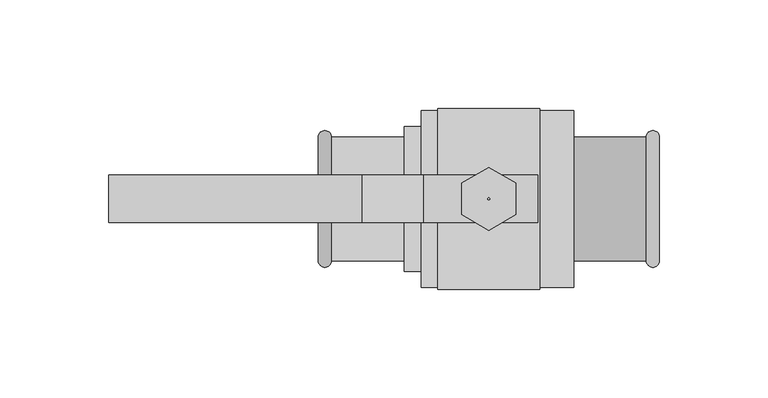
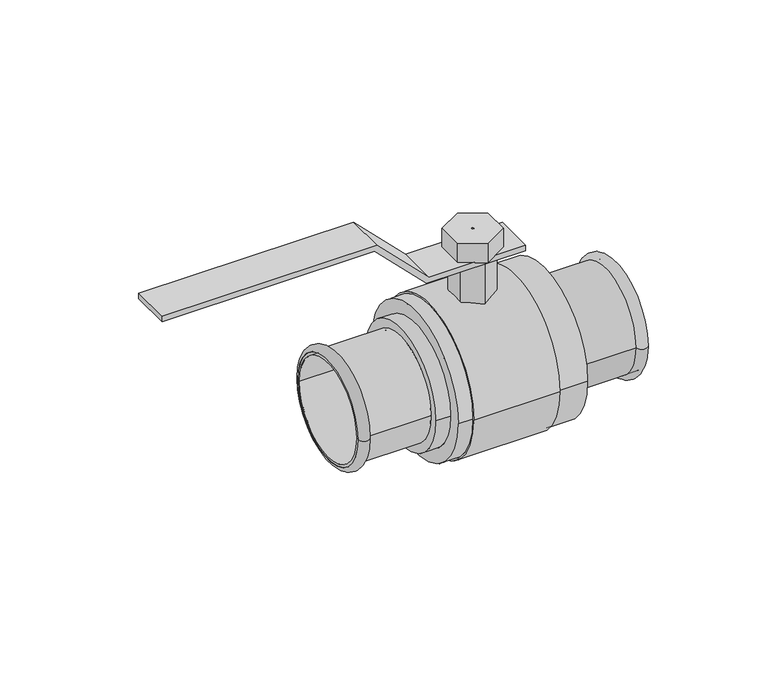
"""IFC4 building model written with IfcOpenShell, lengths in millimetres: valve geometry, NLRS_50_PIA_UN_Geberit Mapress kogelkraan NPW, met bedieningshendel_PRO_103494 : DN12-50 / d15-54 - OD."""

from ifc_helpers import new_model, si_unit, point, frame, origin, place, context, project, spatial, polyline, circle_curve, ellipse_curve, trimmed, outline, extrude, source, transform, mapped, element, save
from ifc_brep_helpers import plane_surface, cylinder_surface, revolved_surface, advanced_brep


def valve_ff65ae7b(model_context):
    return source(origin(), model_context, "Body", "SolidModel", [
        extrude(outline(polyline([(62.6666667, -31.2426407), (62.6666667, 22.5), (65.6666667, 22.5), (65.6666667, -30.0), (94.0, -58.3333333), (94.0, -175.0), (91.0, -175.0), (91.0, -59.575974), (62.6666667, -31.2426407)])), frame((0.0, -10.9375, 0.0), z_axis=(0.0, 1.0, 0.0), x_axis=(0.0, 0.0, 1.0)), (0.0, 0.0, 1.0), 21.875),
        advanced_brep(
        [(78.5, -28.5, 0.0), (78.5, 28.5, 0.0), (72.4987073, 28.5, 0.0), (72.4987073, -28.5, 0.0)],
        [
            (0, 1, circle_curve(frame((78.5, 0.0, 0.0), z_axis=(1.0, 0.0, 0.0), x_axis=(0.0, 1.0, 0.0)), 28.5)),
            (1, 2),
            (2, 3, circle_curve(frame((72.4987073, 0.0, 0.0), z_axis=(-1.0, 0.0, 0.0), x_axis=(0.0, 1.0, 0.0)), 28.5)),
            (3, 0),
            (1, 0, circle_curve(frame((78.5, 0.0, 0.0), z_axis=(1.0, 0.0, 0.0), x_axis=(0.0, 1.0, 0.0)), 28.5)),
            (3, 2, circle_curve(frame((72.4987073, 0.0, 0.0), z_axis=(-1.0, 0.0, 0.0), x_axis=(0.0, 1.0, 0.0)), 28.5)),
            (2, 1, circle_curve(frame((75.4993536, 28.5, 0.0), z_axis=(0.0, 0.0, -1.0), x_axis=(1.0, 0.0, 0.0)), 3.0006464)),
            (0, 3, circle_curve(frame((75.4993536, -28.5, 0.0), z_axis=(0.0, 0.0, -1.0), x_axis=(1.0, 0.0, 0.0)), 3.0006464)),
        ],
        [
            revolved_surface(polyline([(72.4987073, 28.5, 0.0), (78.5, 28.5, 0.0)]), (39.0, 0.0, 0.0), (-1.0, 0.0, 0.0)),
            revolved_surface(trimmed(ellipse_curve(frame((75.4993536, 28.5, 0.0), z_axis=(0.0, 0.0, 1.0), x_axis=(1.0, 0.0, 0.0)), 3.0006464, 3.0006464), [point((78.5, 28.5, 0.0))], [point((72.4987073, 28.5, 0.0))], True, "CARTESIAN"), (39.0, 0.0, 0.0), (-1.0, 0.0, 0.0)),
        ],
        [
            (0, [[1, 2, 3, 4]]),
            (0, [[5, -4, 6, -2]]),
            (1, [[-3, 7, -1, 8]]),
            (1, [[-6, -8, -5, -7]]),
        ],
    ),
        advanced_brep(
        [(78.5, -27.0, 0.0), (78.5, 27.0, 0.0), (38.0, 27.0, 0.0), (38.0, -27.0, 0.0), (78.5, -28.5, 0.0), (78.5, 28.5, 0.0), (39.0, -28.5, 0.0), (39.0, 28.5, 0.0)],
        [
            (0, 1, circle_curve(frame((78.5, 0.0, 0.0), z_axis=(1.0, 0.0, 0.0), x_axis=(0.0, 1.0, 0.0)), 27.0)),
            (1, 2),
            (2, 3, circle_curve(frame((38.0, 0.0, 0.0), z_axis=(-1.0, 0.0, 0.0), x_axis=(0.0, 1.0, 0.0)), 27.0)),
            (3, 0),
            (1, 0, circle_curve(frame((78.5, 0.0, 0.0), z_axis=(1.0, 0.0, 0.0), x_axis=(0.0, 1.0, 0.0)), 27.0)),
            (3, 2, circle_curve(frame((38.0, 0.0, 0.0), z_axis=(-1.0, 0.0, 0.0), x_axis=(0.0, 1.0, 0.0)), 27.0)),
            (4, 5, circle_curve(frame((78.5, 0.0, 0.0), z_axis=(1.0, 0.0, 0.0), x_axis=(0.0, 1.0, 0.0)), 28.5)),
            (5, 1),
            (0, 4),
            (5, 4, circle_curve(frame((78.5, 0.0, 0.0), z_axis=(1.0, 0.0, 0.0), x_axis=(0.0, 1.0, 0.0)), 28.5)),
            (6, 7, circle_curve(frame((39.0, 0.0, 0.0), z_axis=(1.0, 0.0, 0.0), x_axis=(0.0, 1.0, 0.0)), 28.5)),
            (7, 5),
            (4, 6),
            (7, 6, circle_curve(frame((39.0, 0.0, 0.0), z_axis=(1.0, 0.0, 0.0), x_axis=(0.0, 1.0, 0.0)), 28.5)),
            (2, 7),
            (6, 3),
        ],
        [
            revolved_surface(polyline([(38.0, 27.0, 0.0), (78.5, 27.0, 0.0)]), (39.0, 0.0, 0.0), (-1.0, 0.0, 0.0)),
            plane_surface(frame((78.5, 0.0, 0.0), z_axis=(1.0, 0.0, 0.0), x_axis=(0.0, 1.0, 0.0))),
            cylinder_surface(frame((39.0, 0.0, 0.0), z_axis=(-1.0, 0.0, 0.0), x_axis=(0.0, 1.0, 0.0)), 28.5),
            revolved_surface(polyline([(39.0, 28.5, 0.0), (38.0, 27.0, 0.0)]), (39.0, 0.0, 0.0), (-1.0, 0.0, 0.0)),
        ],
        [
            (0, [[1, 2, 3, 4]]),
            (0, [[5, -4, 6, -2]]),
            (1, [[7, 8, -1, 9]]),
            (1, [[10, -9, -5, -8]]),
            (2, [[11, 12, -7, 13]]),
            (2, [[14, -13, -10, -12]]),
            (3, [[-3, 15, -11, 16]]),
            (3, [[-6, -16, -14, -15]]),
        ],
    ),
        advanced_brep(
        [(-78.5, 28.5, 0.0), (-78.5, -28.5, 0.0), (-72.4987073, -28.5, 0.0), (-72.4987073, 28.5, 0.0)],
        [
            (0, 1, circle_curve(frame((-78.5, 0.0, 0.0), z_axis=(-1.0, 0.0, 0.0), x_axis=(0.0, -1.0, 0.0)), 28.5)),
            (1, 2),
            (2, 3, circle_curve(frame((-72.4987073, 0.0, 0.0), z_axis=(1.0, 0.0, 0.0), x_axis=(0.0, -1.0, 0.0)), 28.5)),
            (3, 0),
            (1, 0, circle_curve(frame((-78.5, 0.0, 0.0), z_axis=(-1.0, 0.0, 0.0), x_axis=(0.0, -1.0, 0.0)), 28.5)),
            (3, 2, circle_curve(frame((-72.4987073, 0.0, 0.0), z_axis=(1.0, 0.0, 0.0), x_axis=(0.0, -1.0, 0.0)), 28.5)),
            (2, 1, circle_curve(frame((-75.4993536, -28.5, 0.0), z_axis=(0.0, 0.0, -1.0), x_axis=(-1.0, 0.0, 0.0)), 3.0006464)),
            (0, 3, circle_curve(frame((-75.4993536, 28.5, 0.0), z_axis=(0.0, 0.0, -1.0), x_axis=(-1.0, 0.0, 0.0)), 3.0006464)),
        ],
        [
            revolved_surface(polyline([(-72.4987073, -28.5, 0.0), (-78.5, -28.5, 0.0)]), (-39.0, 0.0, 0.0), (1.0, 0.0, 0.0)),
            revolved_surface(trimmed(ellipse_curve(frame((-75.4993536, -28.5, 0.0), z_axis=(0.0, 0.0, 1.0), x_axis=(-1.0, 0.0, 0.0)), 3.0006464, 3.0006464), [point((-78.5, -28.5, 0.0))], [point((-72.4987073, -28.5, 0.0))], True, "CARTESIAN"), (-39.0, 0.0, 0.0), (1.0, 0.0, 0.0)),
        ],
        [
            (0, [[1, 2, 3, 4]]),
            (0, [[5, -4, 6, -2]]),
            (1, [[-3, 7, -1, 8]]),
            (1, [[-6, -8, -5, -7]]),
        ],
    ),
        advanced_brep(
        [(-78.5, 27.0, 0.0), (-78.5, -27.0, 0.0), (-38.0, -27.0, 0.0), (-38.0, 27.0, 0.0), (-78.5, 28.5, 0.0), (-78.5, -28.5, 0.0), (-39.0, 28.5, 0.0), (-39.0, -28.5, 0.0)],
        [
            (0, 1, circle_curve(frame((-78.5, 0.0, 0.0), z_axis=(-1.0, 0.0, 0.0), x_axis=(0.0, -1.0, 0.0)), 27.0)),
            (1, 2),
            (2, 3, circle_curve(frame((-38.0, 0.0, 0.0), z_axis=(1.0, 0.0, 0.0), x_axis=(0.0, -1.0, 0.0)), 27.0)),
            (3, 0),
            (1, 0, circle_curve(frame((-78.5, 0.0, 0.0), z_axis=(-1.0, 0.0, 0.0), x_axis=(0.0, -1.0, 0.0)), 27.0)),
            (3, 2, circle_curve(frame((-38.0, 0.0, 0.0), z_axis=(1.0, 0.0, 0.0), x_axis=(0.0, -1.0, 0.0)), 27.0)),
            (4, 5, circle_curve(frame((-78.5, 0.0, 0.0), z_axis=(-1.0, 0.0, 0.0), x_axis=(0.0, -1.0, 0.0)), 28.5)),
            (5, 1),
            (0, 4),
            (5, 4, circle_curve(frame((-78.5, 0.0, 0.0), z_axis=(-1.0, 0.0, 0.0), x_axis=(0.0, -1.0, 0.0)), 28.5)),
            (6, 7, circle_curve(frame((-39.0, 0.0, 0.0), z_axis=(-1.0, 0.0, 0.0), x_axis=(0.0, -1.0, 0.0)), 28.5)),
            (7, 5),
            (4, 6),
            (7, 6, circle_curve(frame((-39.0, 0.0, 0.0), z_axis=(-1.0, 0.0, 0.0), x_axis=(0.0, -1.0, 0.0)), 28.5)),
            (2, 7),
            (6, 3),
        ],
        [
            revolved_surface(polyline([(-38.0, -27.0, 0.0), (-78.5, -27.0, 0.0)]), (-39.0, 0.0, 0.0), (1.0, 0.0, 0.0)),
            plane_surface(frame((-78.5, 0.0, 0.0), z_axis=(-1.0, 0.0, 0.0), x_axis=(0.0, -1.0, 0.0))),
            cylinder_surface(frame((-39.0, 0.0, 0.0), z_axis=(1.0, 0.0, 0.0), x_axis=(0.0, -1.0, 0.0)), 28.5),
            revolved_surface(polyline([(-39.0, -28.5, 0.0), (-38.0, -27.0, 0.0)]), (-39.0, 0.0, 0.0), (1.0, 0.0, 0.0)),
        ],
        [
            (0, [[1, 2, 3, 4]]),
            (0, [[5, -4, 6, -2]]),
            (1, [[7, 8, -1, 9]]),
            (1, [[10, -9, -5, -8]]),
            (2, [[11, 12, -7, 13]]),
            (2, [[14, -13, -10, -12]]),
            (3, [[-3, 15, -11, 16]]),
            (3, [[-6, -16, -14, -15]]),
        ],
    ),
        advanced_brep(
        [(-31.2, 33.3333333, 0.0), (-31.2, -33.3333333, 0.0), (-39.0, -33.3333333, 0.0), (-39.0, 33.3333333, 0.0), (-23.4, 40.6666667, 0.0), (-23.4, -40.6666667, 0.0), (-31.2, -40.6666667, 0.0), (-31.2, 40.6666667, 0.0), (23.4, 41.6666667, 0.0), (23.4, -41.6666667, 0.0), (-23.4, -41.6666667, 0.0), (-23.4, 41.6666667, 0.0), (39.0, 40.6666667, 0.0), (39.0, -40.6666667, 0.0), (23.4, -40.6666667, 0.0), (23.4, 40.6666667, 0.0), (-39.0, 25.0, 0.0), (-39.0, -25.0, 0.0), (39.0, -25.0, 0.0), (39.0, 25.0, 0.0), (0.0, -11.5470054, 40.0347072), (-10.0, -5.7735027, 41.264728), (-10.0, 5.7735027, 41.264728), (0.0, 11.5470054, 40.0347072), (10.0, 5.7735027, 41.264728), (10.0, -5.7735027, 41.264728), (-0.5, -0.2886751, 41.6656667), (0.0, -0.5773503, 41.6626665), (0.5, -0.2886751, 41.6656667), (0.5, 0.2886751, 41.6656667), (0.0, 0.5773503, 41.6626665), (-0.5, 0.2886751, 41.6656667), (-10.0, -5.7735027, 24.3241992), (0.0, -11.5470054, 22.1735578), (10.0, -5.7735027, 24.3241992), (10.0, 5.7735027, 24.3241992), (0.0, 11.5470054, 22.1735578), (-10.0, 5.7735027, 24.3241992), (0.0, -0.5773503, 24.9933324), (-0.5, -0.2886751, 24.9983333), (-0.5, 0.2886751, 24.9983333), (0.0, 0.5773503, 24.9933324), (0.5, 0.2886751, 24.9983333), (0.5, -0.2886751, 24.9983333), (-1.5, -0.8660254, 65.6666667), (-1.5, -0.8660254, 62.6666667), (0.0, -1.7320508, 62.6666667), (0.0, -1.7320508, 65.6666667), (-12.5, -7.2168784, 76.6666667), (-12.5, -7.2168784, 65.6666667), (0.0, -14.4337567, 65.6666667), (0.0, -14.4337567, 76.6666667), (-0.5, -0.2886751, 76.6666667), (0.0, -0.5773503, 76.6666667), (0.0, -0.5773503, 0.0), (-0.5, -0.2886751, 0.0), (-10.0, -5.7735027, 0.0), (0.0, -11.5470054, 0.0), (0.0, -11.5470054, 62.6666667), (-10.0, -5.7735027, 62.6666667), (1.5, -0.8660254, 62.6666667), (1.5, -0.8660254, 65.6666667), (12.5, -7.2168784, 65.6666667), (12.5, -7.2168784, 76.6666667), (0.5, -0.2886751, 76.6666667), (0.5, -0.2886751, 0.0), (10.0, -5.7735027, 0.0), (10.0, -5.7735027, 62.6666667), (1.5, 0.8660254, 65.6666667), (1.5, 0.8660254, 62.6666667), (0.0, 1.7320508, 62.6666667), (0.0, 1.7320508, 65.6666667), (12.5, 7.2168784, 76.6666667), (12.5, 7.2168784, 65.6666667), (0.0, 14.4337567, 65.6666667), (0.0, 14.4337567, 76.6666667), (0.5, 0.2886751, 76.6666667), (0.0, 0.5773503, 76.6666667), (0.0, 0.5773503, 0.0), (0.5, 0.2886751, 0.0), (10.0, 5.7735027, 0.0), (0.0, 11.5470054, 0.0), (0.0, 11.5470054, 62.6666667), (10.0, 5.7735027, 62.6666667), (-1.5, 0.8660254, 62.6666667), (-1.5, 0.8660254, 65.6666667), (-12.5, 7.2168784, 65.6666667), (-12.5, 7.2168784, 76.6666667), (-0.5, 0.2886751, 76.6666667), (-0.5, 0.2886751, 0.0), (-10.0, 5.7735027, 0.0), (-10.0, 5.7735027, 62.6666667)],
        [
            (0, 1, circle_curve(frame((-31.2, 0.0, 0.0), z_axis=(-1.0, 0.0, 0.0), x_axis=(0.0, -1.0, 0.0)), 33.3333333)),
            (1, 2),
            (2, 3, circle_curve(frame((-39.0, 0.0, 0.0), z_axis=(1.0, 0.0, 0.0), x_axis=(0.0, -1.0, 0.0)), 33.3333333)),
            (3, 0),
            (4, 5, circle_curve(frame((-23.4, 0.0, 0.0), z_axis=(-1.0, 0.0, 0.0), x_axis=(0.0, -1.0, 0.0)), 40.6666667)),
            (5, 6),
            (6, 7, circle_curve(frame((-31.2, 0.0, 0.0), z_axis=(1.0, 0.0, 0.0), x_axis=(0.0, -1.0, 0.0)), 40.6666667)),
            (7, 4),
            (8, 9, circle_curve(frame((23.4, 0.0, 0.0), z_axis=(-1.0, 0.0, 0.0), x_axis=(0.0, -1.0, 0.0)), 41.6666667)),
            (9, 10),
            (10, 11, circle_curve(frame((-23.4, 0.0, 0.0), z_axis=(1.0, 0.0, 0.0), x_axis=(0.0, -1.0, 0.0)), 41.6666667)),
            (11, 8),
            (12, 13, circle_curve(frame((39.0, 0.0, 0.0), z_axis=(-1.0, 0.0, 0.0), x_axis=(0.0, -1.0, 0.0)), 40.6666667)),
            (13, 14),
            (14, 15, circle_curve(frame((23.4, 0.0, 0.0), z_axis=(1.0, 0.0, 0.0), x_axis=(0.0, -1.0, 0.0)), 40.6666667)),
            (15, 12),
            (16, 17, circle_curve(frame((-39.0, 0.0, 0.0), z_axis=(-1.0, 0.0, 0.0), x_axis=(0.0, -1.0, 0.0)), 25.0)),
            (17, 18),
            (18, 19, circle_curve(frame((39.0, 0.0, 0.0), z_axis=(1.0, 0.0, 0.0), x_axis=(0.0, -1.0, 0.0)), 25.0)),
            (19, 16),
            (1, 0, circle_curve(frame((-31.2, 0.0, 0.0), z_axis=(-1.0, 0.0, 0.0), x_axis=(0.0, 1.0, 0.0)), 33.3333333)),
            (3, 2, circle_curve(frame((-39.0, 0.0, 0.0), z_axis=(1.0, 0.0, 0.0), x_axis=(0.0, 1.0, 0.0)), 33.3333333)),
            (6, 7, circle_curve(frame((-31.2, 0.0, 0.0), z_axis=(-1.0, 0.0, 0.0), x_axis=(0.0, 1.0, 0.0)), 40.6666667)),
            (5, 4, circle_curve(frame((-23.4, 0.0, 0.0), z_axis=(-1.0, 0.0, 0.0), x_axis=(0.0, 1.0, 0.0)), 40.6666667)),
            (10, 11, circle_curve(frame((-23.4, 0.0, 0.0), z_axis=(-1.0, 0.0, 0.0), x_axis=(0.0, 1.0, 0.0)), 41.6666667)),
            (9, 8, circle_curve(frame((23.4, 0.0, 0.0), z_axis=(-1.0, 0.0, 0.0), x_axis=(0.0, 1.0, 0.0)), 41.6666667)),
            (20, 21, ellipse_curve(frame((-20.0, 0.0, 0.0), z_axis=(-0.5000000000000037, -0.8660254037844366, 0.0), x_axis=(0.8660254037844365, -0.5000000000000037, 0.0)), 83.3333333, 41.6666667)),
            (21, 22, circle_curve(frame((-10.0, 0.0, 0.0), z_axis=(-1.0, 0.0, 0.0), x_axis=(0.0, 1.0, 0.0)), 41.6666667)),
            (22, 23, ellipse_curve(frame((-20.0, 0.0, 0.0), z_axis=(-0.4999999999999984, 0.8660254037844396, 0.0), x_axis=(0.8660254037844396, 0.49999999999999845, 0.0)), 83.3333333, 41.6666667)),
            (23, 24, ellipse_curve(frame((20.0, 0.0, 0.0), z_axis=(0.5000000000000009, 0.8660254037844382, 0.0), x_axis=(0.866025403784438, -0.5000000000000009, 0.0)), 83.3333333, 41.6666667)),
            (24, 25, circle_curve(frame((10.0, 0.0, 0.0), z_axis=(1.0, 0.0, 0.0), x_axis=(0.0, 1.0, 0.0)), 41.6666667)),
            (25, 20, ellipse_curve(frame((20.0, 0.0, 0.0), z_axis=(0.49999999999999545, -0.8660254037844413, 0.0), x_axis=(0.8660254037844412, 0.4999999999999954, 0.0)), 83.3333333, 41.6666667)),
            (26, 27, ellipse_curve(frame((-1.0, 0.0, 0.0), z_axis=(0.5000000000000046, 0.866025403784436, 0.0), x_axis=(0.866025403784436, -0.5000000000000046, 0.0)), 83.3333333, 41.6666667)),
            (27, 28, ellipse_curve(frame((1.0, 0.0, 0.0), z_axis=(-0.4999999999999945, 0.8660254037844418, 0.0), x_axis=(0.8660254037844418, 0.49999999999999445, 0.0)), 83.3333333, 41.6666667)),
            (28, 29, circle_curve(frame((0.5, 0.0, 0.0), z_axis=(-1.0, 0.0, 0.0), x_axis=(0.0, 1.0, 0.0)), 41.6666667)),
            (29, 30, ellipse_curve(frame((1.0, 0.0, 0.0), z_axis=(-0.5000000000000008, -0.8660254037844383, 0.0), x_axis=(0.8660254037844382, -0.5000000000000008, 0.0)), 83.3333333, 41.6666667)),
            (30, 31, ellipse_curve(frame((-1.0, 0.0, 0.0), z_axis=(0.5000000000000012, -0.866025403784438, 0.0), x_axis=(0.8660254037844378, 0.5000000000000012, 0.0)), 83.3333333, 41.6666667)),
            (31, 26, circle_curve(frame((-0.5, 0.0, 0.0), z_axis=(1.0, 0.0, 0.0), x_axis=(0.0, 1.0, 0.0)), 41.6666667)),
            (14, 15, circle_curve(frame((23.4, 0.0, 0.0), z_axis=(-1.0, 0.0, 0.0), x_axis=(0.0, 1.0, 0.0)), 40.6666667)),
            (13, 12, circle_curve(frame((39.0, 0.0, 0.0), z_axis=(-1.0, 0.0, 0.0), x_axis=(0.0, 1.0, 0.0)), 40.6666667)),
            (18, 19, circle_curve(frame((39.0, 0.0, 0.0), z_axis=(-1.0, 0.0, 0.0), x_axis=(0.0, 1.0, 0.0)), 25.0)),
            (17, 16, circle_curve(frame((-39.0, 0.0, 0.0), z_axis=(-1.0, 0.0, 0.0), x_axis=(0.0, 1.0, 0.0)), 25.0)),
            (32, 33, ellipse_curve(frame((-20.0, 0.0, 0.0), z_axis=(0.5000000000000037, 0.8660254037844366, 0.0), x_axis=(0.8660254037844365, -0.5000000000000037, 0.0)), 50.0, 25.0)),
            (33, 34, ellipse_curve(frame((20.0, 0.0, 0.0), z_axis=(-0.49999999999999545, 0.8660254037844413, 0.0), x_axis=(0.8660254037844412, 0.4999999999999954, 0.0)), 50.0, 25.0)),
            (34, 35, circle_curve(frame((10.0, 0.0, 0.0), z_axis=(-1.0, 0.0, 0.0), x_axis=(0.0, 1.0, 0.0)), 25.0)),
            (35, 36, ellipse_curve(frame((20.0, 0.0, 0.0), z_axis=(-0.5000000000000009, -0.8660254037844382, 0.0), x_axis=(0.866025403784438, -0.5000000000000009, 0.0)), 50.0, 25.0)),
            (36, 37, ellipse_curve(frame((-20.0, 0.0, 0.0), z_axis=(0.4999999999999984, -0.8660254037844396, 0.0), x_axis=(0.8660254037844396, 0.49999999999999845, 0.0)), 50.0, 25.0)),
            (37, 32, circle_curve(frame((-10.0, 0.0, 0.0), z_axis=(1.0, 0.0, 0.0), x_axis=(0.0, 1.0, 0.0)), 25.0)),
            (38, 39, ellipse_curve(frame((-1.0, 0.0, 0.0), z_axis=(-0.5000000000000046, -0.866025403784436, 0.0), x_axis=(0.866025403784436, -0.5000000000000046, 0.0)), 50.0, 25.0)),
            (39, 40, circle_curve(frame((-0.5, 0.0, 0.0), z_axis=(-1.0, 0.0, 0.0), x_axis=(0.0, 1.0, 0.0)), 25.0)),
            (40, 41, ellipse_curve(frame((-1.0, 0.0, 0.0), z_axis=(-0.5000000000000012, 0.866025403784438, 0.0), x_axis=(0.8660254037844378, 0.5000000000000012, 0.0)), 50.0, 25.0)),
            (41, 42, ellipse_curve(frame((1.0, 0.0, 0.0), z_axis=(0.5000000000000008, 0.8660254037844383, 0.0), x_axis=(0.8660254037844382, -0.5000000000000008, 0.0)), 50.0, 25.0)),
            (42, 43, circle_curve(frame((0.5, 0.0, 0.0), z_axis=(1.0, 0.0, 0.0), x_axis=(0.0, 1.0, 0.0)), 25.0)),
            (43, 38, ellipse_curve(frame((1.0, 0.0, 0.0), z_axis=(0.4999999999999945, -0.8660254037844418, 0.0), x_axis=(0.8660254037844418, 0.49999999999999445, 0.0)), 50.0, 25.0)),
            (44, 45),
            (45, 46),
            (46, 47),
            (47, 44),
            (48, 49),
            (49, 50),
            (50, 51),
            (51, 48),
            (52, 53),
            (53, 27),
            (26, 52),
            (54, 55),
            (55, 39),
            (38, 54),
            (56, 57),
            (57, 33),
            (32, 56),
            (58, 59),
            (59, 21),
            (20, 58),
            (46, 60),
            (60, 61),
            (61, 47),
            (50, 62),
            (62, 63),
            (63, 51),
            (53, 64),
            (64, 28),
            (65, 54),
            (43, 65),
            (57, 66),
            (66, 34),
            (67, 58),
            (25, 67),
            (68, 69),
            (69, 70),
            (70, 71),
            (71, 68),
            (72, 73),
            (73, 74),
            (74, 75),
            (75, 72),
            (76, 77),
            (77, 30),
            (29, 76),
            (78, 79),
            (79, 42),
            (41, 78),
            (80, 81),
            (81, 36),
            (35, 80),
            (82, 83),
            (83, 24),
            (23, 82),
            (70, 84),
            (84, 85),
            (85, 71),
            (74, 86),
            (86, 87),
            (87, 75),
            (77, 88),
            (88, 31),
            (89, 78),
            (40, 89),
            (81, 90),
            (90, 37),
            (91, 82),
            (22, 91),
            (60, 69),
            (68, 61),
            (62, 73),
            (72, 63),
            (79, 65),
            (64, 76),
            (83, 67),
            (66, 80),
            (91, 59),
            (45, 84),
            (44, 85),
            (49, 86),
            (48, 87),
            (52, 88),
            (55, 89),
            (56, 90),
        ],
        [
            cylinder_surface(frame((0.0, 0.0, 0.0), z_axis=(1.0, 0.0, 0.0), x_axis=(0.0, -1.0, 0.0)), 33.3333333),
            cylinder_surface(frame((0.0, 0.0, 0.0), z_axis=(1.0, 0.0, 0.0), x_axis=(0.0, -1.0, 0.0)), 40.6666667),
            cylinder_surface(frame((0.0, 0.0, 0.0), z_axis=(1.0, 0.0, 0.0), x_axis=(0.0, -1.0, 0.0)), 41.6666667),
            revolved_surface(polyline([(39.0, -25.0, 0.0), (-39.0, -25.0, 0.0)]), (0.0, 0.0, 0.0), (1.0, 0.0, 0.0)),
            cylinder_surface(frame((0.0, 0.0, 0.0), z_axis=(1.0, 0.0, 0.0), x_axis=(0.0, 1.0, 0.0)), 33.3333333),
            plane_surface(frame((-31.2, 0.0, 0.0), z_axis=(-1.0, 0.0, 0.0), x_axis=(0.0, 1.0, 0.0))),
            cylinder_surface(frame((0.0, 0.0, 0.0), z_axis=(1.0, 0.0, 0.0), x_axis=(0.0, 1.0, 0.0)), 40.6666667),
            plane_surface(frame((-23.4, 0.0, 0.0), z_axis=(-1.0, 0.0, 0.0), x_axis=(0.0, 1.0, 0.0))),
            cylinder_surface(frame((0.0, 0.0, 0.0), z_axis=(1.0, 0.0, 0.0), x_axis=(0.0, 1.0, 0.0)), 41.6666667),
            plane_surface(frame((23.4, 0.0, 0.0), z_axis=(1.0, 0.0, 0.0), x_axis=(0.0, 1.0, 0.0))),
            plane_surface(frame((39.0, 0.0, 0.0), z_axis=(1.0, 0.0, 0.0), x_axis=(0.0, 1.0, 0.0))),
            revolved_surface(polyline([(63.30127018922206, 25.0, 0.0), (-63.30127018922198, 25.0, 0.0)]), (0.0, 0.0, 0.0), (1.0, 0.0, 0.0)),
            revolved_surface(polyline([(44.30127018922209, 25.0, 0.0), (-44.30127018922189, 25.0, 0.0)]), (0.0, 0.0, 0.0), (1.0, 0.0, 0.0)),
            plane_surface(frame((-39.0, 0.0, 0.0), z_axis=(-1.0, 0.0, 0.0), x_axis=(0.0, 1.0, 0.0))),
            plane_surface(frame((-1.5, -0.8660254, 62.6666667), z_axis=(-0.500000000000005, -0.8660254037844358, 0.0), x_axis=(0.8660254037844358, -0.500000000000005, 0.0))),
            plane_surface(frame((-12.5, -7.2168784, 65.6666667), z_axis=(-0.5000000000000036, -0.8660254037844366, 0.0), x_axis=(0.8660254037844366, -0.5000000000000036, 0.0))),
            plane_surface(frame((-0.5, -0.2886751, 76.6666667), z_axis=(0.5000000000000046, 0.866025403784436, 0.0), x_axis=(0.866025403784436, -0.5000000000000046, 0.0))),
            plane_surface(frame((-10.0, -5.7735027, 0.0), z_axis=(-0.5000000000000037, -0.8660254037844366, 0.0), x_axis=(0.8660254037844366, -0.5000000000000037, 0.0))),
            plane_surface(frame((0.0, -1.7320508, 62.6666667), z_axis=(0.4999999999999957, -0.8660254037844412, 0.0), x_axis=(0.8660254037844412, 0.4999999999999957, 0.0))),
            plane_surface(frame((0.0, -14.4337567, 65.6666667), z_axis=(0.49999999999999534, -0.8660254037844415, 0.0), x_axis=(0.8660254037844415, 0.49999999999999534, 0.0))),
            plane_surface(frame((0.0, -0.5773503, 76.6666667), z_axis=(-0.4999999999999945, 0.8660254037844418, 0.0), x_axis=(0.8660254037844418, 0.4999999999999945, 0.0))),
            plane_surface(frame((0.0, -11.5470054, 0.0), z_axis=(0.49999999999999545, -0.8660254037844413, 0.0), x_axis=(0.8660254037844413, 0.49999999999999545, 0.0))),
            plane_surface(frame((1.5, 0.8660254, 62.6666667), z_axis=(0.5000000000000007, 0.8660254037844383, 0.0), x_axis=(-0.8660254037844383, 0.5000000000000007, 0.0))),
            plane_surface(frame((12.5, 7.2168784, 65.6666667), z_axis=(0.500000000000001, 0.866025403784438, 0.0), x_axis=(-0.866025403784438, 0.500000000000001, 0.0))),
            plane_surface(frame((0.5, 0.2886751, 76.6666667), z_axis=(-0.5000000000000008, -0.8660254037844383, 0.0), x_axis=(-0.8660254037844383, 0.5000000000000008, 0.0))),
            plane_surface(frame((10.0, 5.7735027, 0.0), z_axis=(0.5000000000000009, 0.8660254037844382, 0.0), x_axis=(-0.8660254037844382, 0.5000000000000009, 0.0))),
            plane_surface(frame((0.0, 1.7320508, 62.6666667), z_axis=(-0.49999999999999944, 0.866025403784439, 0.0), x_axis=(-0.866025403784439, -0.49999999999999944, 0.0))),
            plane_surface(frame((0.0, 14.4337567, 65.6666667), z_axis=(-0.4999999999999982, 0.8660254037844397, 0.0), x_axis=(-0.8660254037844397, -0.4999999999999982, 0.0))),
            plane_surface(frame((0.0, 0.5773503, 76.6666667), z_axis=(0.5000000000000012, -0.866025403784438, 0.0), x_axis=(-0.866025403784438, -0.5000000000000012, 0.0))),
            plane_surface(frame((0.0, 11.5470054, 0.0), z_axis=(-0.4999999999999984, 0.8660254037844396, 0.0), x_axis=(-0.8660254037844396, -0.4999999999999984, 0.0))),
            plane_surface(frame((1.5, -0.8660254, 62.6666667), z_axis=(1.0, 0.0, 0.0), x_axis=(0.0, 1.0, 0.0))),
            plane_surface(frame((12.5, -7.2168784, 65.6666667), z_axis=(1.0, 0.0, 0.0), x_axis=(0.0, 1.0, 0.0))),
            plane_surface(frame((0.5, -0.2886751, 76.6666667), z_axis=(-1.0, 0.0, 0.0), x_axis=(0.0, 1.0, 0.0))),
            plane_surface(frame((10.0, -5.7735027, 0.0), z_axis=(1.0, 0.0, 0.0), x_axis=(0.0, 1.0, 0.0))),
            plane_surface(frame((-10.0, 5.7735027, 62.6666667), z_axis=(0.0, 0.0, 1.0), x_axis=(0.0, -1.0, 0.0))),
            plane_surface(frame((-1.5, 0.8660254, 62.6666667), z_axis=(-1.0, 0.0, 0.0), x_axis=(0.0, -1.0, 0.0))),
            plane_surface(frame((-1.5, 0.8660254, 65.6666667), z_axis=(0.0, 0.0, -1.0), x_axis=(0.0, -1.0, 0.0))),
            plane_surface(frame((-12.5, 7.2168784, 65.6666667), z_axis=(-1.0, 0.0, 0.0), x_axis=(0.0, -1.0, 0.0))),
            plane_surface(frame((-12.5, 7.2168784, 76.6666667), z_axis=(0.0, 0.0, 1.0), x_axis=(0.0, -1.0, 0.0))),
            plane_surface(frame((-0.5, 0.2886751, 76.6666667), z_axis=(1.0, 0.0, 0.0), x_axis=(0.0, -1.0, 0.0))),
            plane_surface(frame((-0.5, 0.2886751, 0.0), z_axis=(0.0, 0.0, -1.0), x_axis=(0.0, -1.0, 0.0))),
            plane_surface(frame((-10.0, 5.7735027, 0.0), z_axis=(-1.0, 0.0, 0.0), x_axis=(0.0, -1.0, 0.0))),
        ],
        [
            (0, [[1, 2, 3, 4]]),
            (1, [[5, 6, 7, 8]]),
            (2, [[9, 10, 11, 12]]),
            (1, [[13, 14, 15, 16]]),
            (3, [[17, 18, 19, 20]]),
            (4, [[-2, 21, -4, 22]]),
            (5, [[-7, 23], [-1, -21]]),
            (6, [[-6, 24, -8, -23]]),
            (7, [[-11, 25], [-5, -24]]),
            (8, [[-10, 26, -12, -25], [27, 28, 29, 30, 31, 32]]),
            (8, [[33, 34, 35, 36, 37, 38]]),
            (9, [[-9, -26], [-15, 39]]),
            (6, [[-14, 40, -16, -39]]),
            (10, [[-13, -40], [-19, 41]]),
            (11, [[-18, 42, -20, -41], [43, 44, 45, 46, 47, 48]]),
            (12, [[49, 50, 51, 52, 53, 54]]),
            (13, [[-3, -22], [-17, -42]]),
            (14, [[55, 56, 57, 58]]),
            (15, [[59, 60, 61, 62]]),
            (16, [[63, 64, -33, 65]]),
            (16, [[66, 67, -49, 68]]),
            (17, [[69, 70, -43, 71]]),
            (17, [[72, 73, -27, 74]]),
            (18, [[-57, 75, 76, 77]]),
            (19, [[-61, 78, 79, 80]]),
            (20, [[81, 82, -34, -64]]),
            (20, [[83, -68, -54, 84]]),
            (21, [[85, 86, -44, -70]]),
            (21, [[87, -74, -32, 88]]),
            (22, [[89, 90, 91, 92]]),
            (23, [[93, 94, 95, 96]]),
            (24, [[97, 98, -36, 99]]),
            (24, [[100, 101, -52, 102]]),
            (25, [[103, 104, -46, 105]]),
            (25, [[106, 107, -30, 108]]),
            (26, [[-91, 109, 110, 111]]),
            (27, [[-95, 112, 113, 114]]),
            (28, [[115, 116, -37, -98]]),
            (28, [[117, -102, -51, 118]]),
            (29, [[119, 120, -47, -104]]),
            (29, [[121, -108, -29, 122]]),
            (30, [[-76, 123, -89, 124]]),
            (31, [[-79, 125, -93, 126]]),
            (32, [[127, -84, -53, -101]]),
            (32, [[128, -99, -35, -82]]),
            (33, [[129, -88, -31, -107]]),
            (33, [[130, -105, -45, -86]]),
            (34, [[-72, -87, -129, -106, -121, 131], [-56, 132, -109, -90, -123, -75]]),
            (35, [[-55, 133, -110, -132]]),
            (36, [[-60, 134, -112, -94, -125, -78], [-58, -77, -124, -92, -111, -133]]),
            (37, [[-59, 135, -113, -134]]),
            (38, [[-62, -80, -126, -96, -114, -135], [-63, 136, -115, -97, -128, -81]]),
            (39, [[-136, -65, -38, -116]]),
            (39, [[137, -118, -50, -67]]),
            (40, [[-69, 138, -119, -103, -130, -85], [-66, -83, -127, -100, -117, -137]]),
            (41, [[-131, -122, -28, -73]]),
            (41, [[-138, -71, -48, -120]]),
        ],
    ),
    ])


if __name__ == "__main__":
    model = new_model("IFC4")
    model_context = context("Model", 3, world=origin())
    ifc_project = project(units=[si_unit("LENGTHUNIT", "METRE", prefix="MILLI")], contexts=[model_context])
    site = spatial("IfcSite", under=ifc_project)
    building = spatial("IfcBuilding", under=site)
    placement = place(None, origin())
    valve_shape = valve_ff65ae7b(model_context)
    element("IfcValve", 1, ObjectType="NLRS_50_PIA_UN_Geberit Mapress kogelkraan NPW, met bedieningshendel_PRO_103494 : DN12-50 / d15-54 - OD", at=placement, inside=building, context=model_context, shape_type="MappedRepresentation", body=[
        mapped(valve_shape, transform((0.0, 0.0, 0.0), x_axis=(1.0, 0.0, 0.0), y_axis=(0.0, 1.0, 0.0), z_axis=(0.0, 0.0, 1.0))),
    ])
    save(model, "model.ifc")
